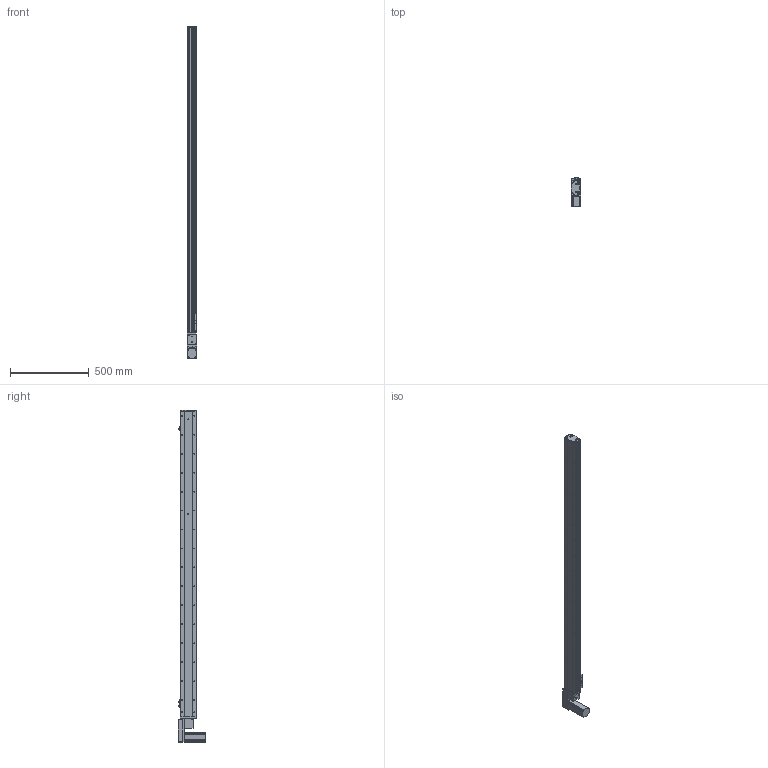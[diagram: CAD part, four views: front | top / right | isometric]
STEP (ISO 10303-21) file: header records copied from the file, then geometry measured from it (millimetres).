
FILE_DESCRIPTION (( 'STEP AP214' ), '1' );
FILE_NAME ('KSD100B-S1750-MLB-CM.STEP', '2019-11-09T07:10:09', ( '微软用户' ), ( '微软中国' ), 'SwSTEP 2.0', 'SolidWorks 2014', '' );
FILE_SCHEMA (( 'AUTOMOTIVE_DESIGN' ));
Length unit declared in the file: millimetre
Products named in the file (12): 悵誘欶奻狟殏; 100宽马达安装板连板上下折丝杆同步带; 台达ECMA－C20604AS伺服电机; U倰嫖萇EEㄜSX672; 覜茼え100遵圉猾敕; 100宽防尘板1750行程-同步带; 100宽马达安装板同步带左; 100宽同步带安装板半封闭; 100宽马达安装板同步带; 100遵傷啣肮祭湍; 100宽底板半封闭同步带1750行程; KSD100B-S1750-MLB-CM
Assembly tree (13 placements, depth 2):
  KSD100B-S1750-MLB-CM
    100宽底板半封闭同步带1750行程
    100遵傷啣肮祭湍
    100宽马达安装板同步带
    100宽同步带安装板半封闭
    100宽马达安装板同步带左
    100宽防尘板1750行程-同步带
    覜茼え100遵圉猾敕
    U倰嫖萇EEㄜSX672  x3
    台达ECMA－C20604AS伺服电机
    100宽马达安装板连板上下折丝杆同步带
    悵誘欶奻狟殏
Bounding box: 61 x 174.7 x 2103 mm (x, y, z)
Volume: 4187015.2 mm3; surface area: 1433517.8 mm2
Topology: 14 solids, 14 shells, 1691 faces, 4806 edges, 3027 vertices
Faces by surface type: cylinder 885, plane 619, cone 187
Entity records: 62379 total; most frequent: CARTESIAN_POINT 13486, DIRECTION 8390, ORIENTED_EDGE 8144, EDGE_CURVE 4072, AXIS2_PLACEMENT_3D 3093, VERTEX_POINT 2651, LINE 2204, VECTOR 2204
